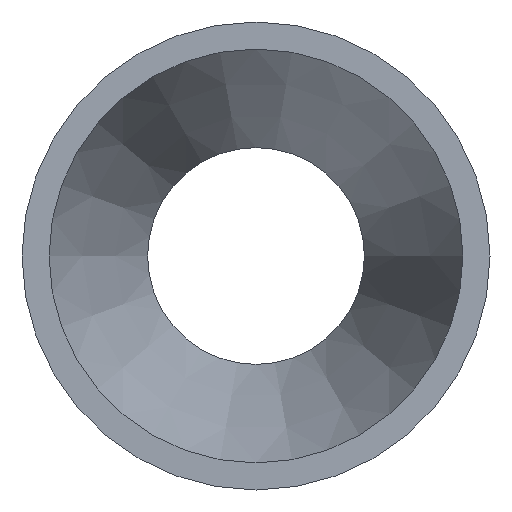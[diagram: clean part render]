
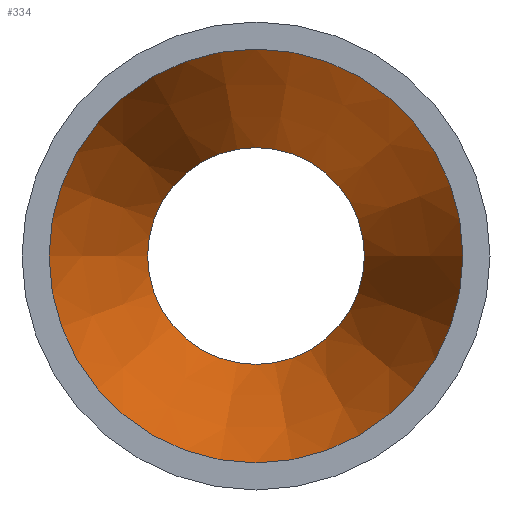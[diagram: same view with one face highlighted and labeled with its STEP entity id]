
A CAD part, left-side view. The second image highlights one B-rep face of the part: STEP entity #334.
In plain terms, the highlighted conical face has half-angle 18.015 degrees and reference radius 16.256 mm.
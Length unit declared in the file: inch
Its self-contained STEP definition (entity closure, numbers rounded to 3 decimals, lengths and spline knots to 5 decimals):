
#66=FACE_OUTER_BOUND('',#82,.T.);
#82=EDGE_LOOP('',(#235,#236,#237,#238,#239,#240));
#104=LINE('',#580,#114);
#114=VECTOR('',#447,0.64);
#127=CIRCLE('',#375,0.44);
#128=CIRCLE('',#376,0.84);
#129=CIRCLE('',#377,0.84);
#130=CIRCLE('',#378,0.44);
#159=VERTEX_POINT('',#576);
#160=VERTEX_POINT('',#577);
#161=VERTEX_POINT('',#579);
#162=VERTEX_POINT('',#581);
#192=EDGE_CURVE('',#159,#160,#127,.T.);
#193=EDGE_CURVE('',#160,#161,#104,.T.);
#194=EDGE_CURVE('',#162,#161,#128,.T.);
#195=EDGE_CURVE('',#161,#162,#129,.T.);
#196=EDGE_CURVE('',#160,#159,#130,.T.);
#235=ORIENTED_EDGE('',*,*,#192,.T.);
#236=ORIENTED_EDGE('',*,*,#193,.T.);
#237=ORIENTED_EDGE('',*,*,#194,.F.);
#238=ORIENTED_EDGE('',*,*,#195,.F.);
#239=ORIENTED_EDGE('',*,*,#193,.F.);
#240=ORIENTED_EDGE('',*,*,#196,.T.);
#314=CONICAL_SURFACE('',#374,0.64,0.314);
#334=ADVANCED_FACE('',(#66),#314,.F.);
#374=AXIS2_PLACEMENT_3D('',#575,#443,#444);
#375=AXIS2_PLACEMENT_3D('',#578,#445,#446);
#376=AXIS2_PLACEMENT_3D('',#582,#448,#449);
#377=AXIS2_PLACEMENT_3D('',#583,#450,#451);
#378=AXIS2_PLACEMENT_3D('',#584,#452,#453);
#443=DIRECTION('center_axis',(-1.,0.,0.));
#444=DIRECTION('ref_axis',(0.,1.,0.));
#445=DIRECTION('center_axis',(1.,0.,0.));
#446=DIRECTION('ref_axis',(0.,1.,0.));
#447=DIRECTION('',(-0.951,-0.309,0.));
#448=DIRECTION('center_axis',(1.,0.,0.));
#449=DIRECTION('ref_axis',(0.,1.,0.));
#450=DIRECTION('center_axis',(1.,0.,0.));
#451=DIRECTION('ref_axis',(0.,1.,0.));
#452=DIRECTION('center_axis',(1.,0.,0.));
#453=DIRECTION('ref_axis',(0.,1.,0.));
#575=CARTESIAN_POINT('Origin',(1.875,0.,0.));
#576=CARTESIAN_POINT('',(2.49,0.44,0.));
#577=CARTESIAN_POINT('',(2.49,-0.44,0.));
#578=CARTESIAN_POINT('Origin',(2.49,0.,0.));
#579=CARTESIAN_POINT('',(1.26,-0.84,0.));
#580=CARTESIAN_POINT('',(1.875,-0.64,0.));
#581=CARTESIAN_POINT('',(1.26,0.84,0.));
#582=CARTESIAN_POINT('Origin',(1.26,0.,0.));
#583=CARTESIAN_POINT('Origin',(1.26,0.,0.));
#584=CARTESIAN_POINT('Origin',(2.49,0.,0.));
